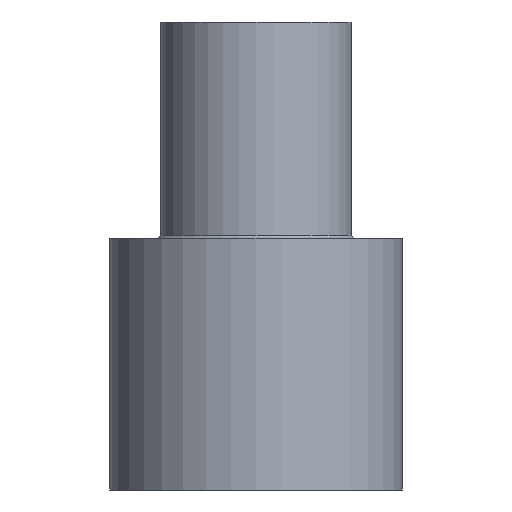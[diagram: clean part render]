
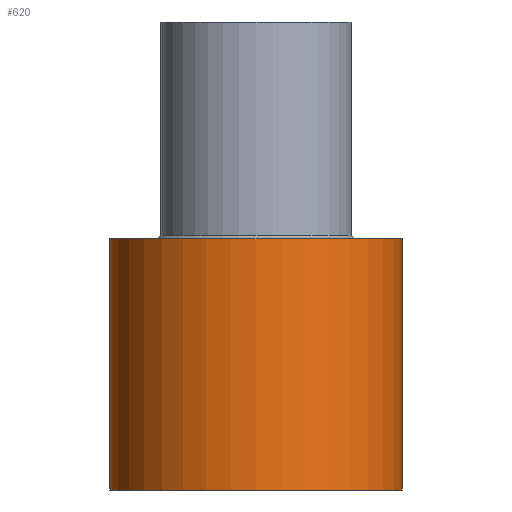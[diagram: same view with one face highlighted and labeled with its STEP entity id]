
A CAD part, front view. The second image highlights one B-rep face of the part: STEP entity #620.
In plain terms, the highlighted cylindrical face has radius 10.922 mm (diameter 21.844 mm), a partial arc.
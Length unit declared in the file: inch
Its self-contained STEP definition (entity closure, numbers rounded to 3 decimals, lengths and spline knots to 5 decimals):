
#6 = CIRCLE ( 'NONE', #199, 0.43 ) ;
#50 = ORIENTED_EDGE ( 'NONE', *, *, #469, .F. ) ;
#72 = ORIENTED_EDGE ( 'NONE', *, *, #1364, .F. ) ;
#155 = CIRCLE ( 'NONE', #1115, 0.43 ) ;
#199 = AXIS2_PLACEMENT_3D ( 'NONE', #1083, #905, #451 ) ;
#290 = CARTESIAN_POINT ( 'NONE',  ( 0.43, 0., -1.4375 ) ) ;
#327 = DIRECTION ( 'NONE',  ( 0., 0., -1. ) ) ;
#360 = DIRECTION ( 'NONE',  ( 0., 0., -1. ) ) ;
#380 = CARTESIAN_POINT ( 'NONE',  ( 0., 0., -2.96052 ) ) ;
#382 = LINE ( 'NONE', #1280, #950 ) ;
#394 = LINE ( 'NONE', #1071, #1146 ) ;
#441 = VERTEX_POINT ( 'NONE', #1079 ) ;
#451 = DIRECTION ( 'NONE',  ( -1., 0., 0. ) ) ;
#454 = DIRECTION ( 'NONE',  ( 0., 0., -1. ) ) ;
#463 = CARTESIAN_POINT ( 'NONE',  ( -0.43, 0., -0.7 ) ) ;
#469 = EDGE_CURVE ( 'NONE', #441, #1211, #382, .T. ) ;
#537 = VERTEX_POINT ( 'NONE', #463 ) ;
#556 = FACE_OUTER_BOUND ( 'NONE', #1037, .T. ) ;
#620 = ADVANCED_FACE ( 'NONE', ( #556 ), #1309, .T. ) ;
#697 = CARTESIAN_POINT ( 'NONE',  ( 0., 0., -0.7 ) ) ;
#905 = DIRECTION ( 'NONE',  ( 0., 0., -1. ) ) ;
#906 = ORIENTED_EDGE ( 'NONE', *, *, #1317, .T. ) ;
#950 = VECTOR ( 'NONE', #454, 39.37008 ) ;
#978 = EDGE_CURVE ( 'NONE', #441, #537, #155, .T. ) ;
#1007 = CARTESIAN_POINT ( 'NONE',  ( -0.43, 0., -1.4375 ) ) ;
#1037 = EDGE_LOOP ( 'NONE', ( #50, #1185, #906, #72 ) ) ;
#1044 = VERTEX_POINT ( 'NONE', #1007 ) ;
#1071 = CARTESIAN_POINT ( 'NONE',  ( -0.43, 0., -2.96052 ) ) ;
#1079 = CARTESIAN_POINT ( 'NONE',  ( 0.43, 0., -0.7 ) ) ;
#1083 = CARTESIAN_POINT ( 'NONE',  ( 0., 0., -1.4375 ) ) ;
#1115 = AXIS2_PLACEMENT_3D ( 'NONE', #697, #360, #1214 ) ;
#1130 = DIRECTION ( 'NONE',  ( 0., 0., -1. ) ) ;
#1146 = VECTOR ( 'NONE', #327, 39.37008 ) ;
#1185 = ORIENTED_EDGE ( 'NONE', *, *, #978, .T. ) ;
#1211 = VERTEX_POINT ( 'NONE', #290 ) ;
#1214 = DIRECTION ( 'NONE',  ( -1., 0., 0. ) ) ;
#1241 = DIRECTION ( 'NONE',  ( -1., 0., 0. ) ) ;
#1265 = AXIS2_PLACEMENT_3D ( 'NONE', #380, #1130, #1241 ) ;
#1280 = CARTESIAN_POINT ( 'NONE',  ( 0.43, 0., -2.96052 ) ) ;
#1309 = CYLINDRICAL_SURFACE ( 'NONE', #1265, 0.43 ) ;
#1317 = EDGE_CURVE ( 'NONE', #537, #1044, #394, .T. ) ;
#1364 = EDGE_CURVE ( 'NONE', #1211, #1044, #6, .T. ) ;
